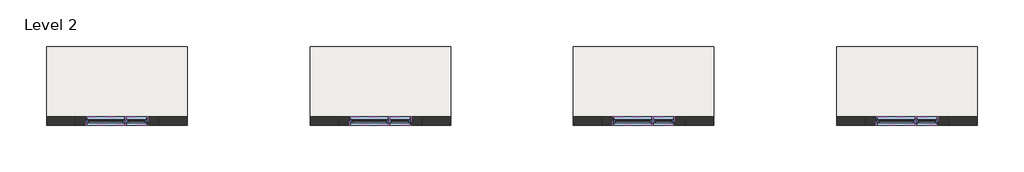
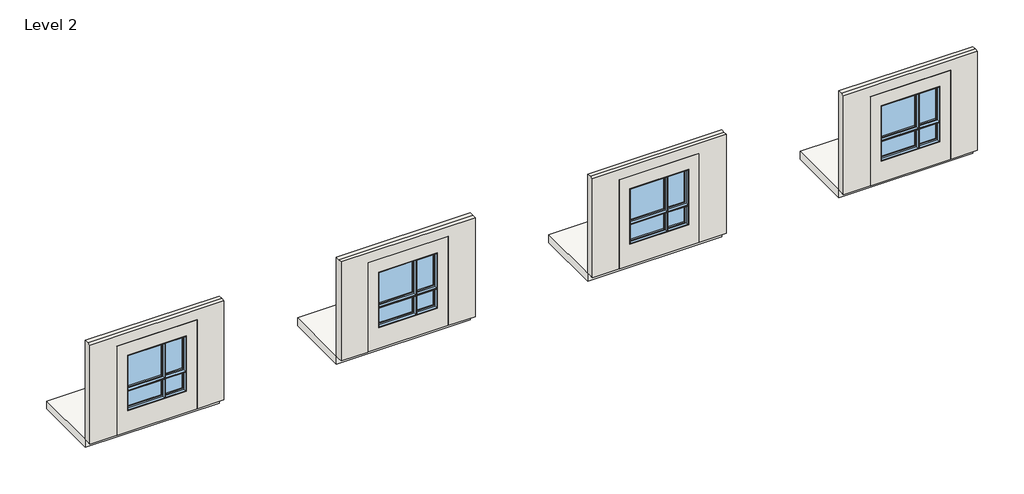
# One storey: 16 windows, 8 walls, 4 slabs.
"""IFC4 building model written with IfcOpenShell, lengths in millimetres."""

from ifc_helpers import new_model, si_unit, origin, place, context, project, spatial, faceted_brep, transform, mapped, element, save
from components import plank_window_awning_4626_d54cf950, plank_window_casement_2646_fc72efb1, plank_window_fixed_2626_f09a5b78, plank_window_fixed_4646_613d52dc

model = new_model("IFC4")

# Units and contexts
model_context = context("Model", 3, world=origin())
ifc_project = project(units=[si_unit("LENGTHUNIT", "METRE", prefix="MILLI")], contexts=[model_context])

# Site, building, storey
site = spatial("IfcSite", under=ifc_project)
building = spatial("IfcBuilding", under=site)
storey = spatial("IfcBuildingStorey", under=building, Name="Level 2", Elevation=3048.0)

# Slabs
placement = place(None, origin())
element("IfcSlab", 1, ObjectType="Generic - 12\"", at=placement, inside=storey, context=model_context, shape_type="Brep", body=[
    faceted_brep([(2579.5935045, 2980.4489771, 2743.2), (-2297.2064955, 2980.4489771, 2743.2), (-2297.2064955, 5418.8489771, 2743.2), (2579.5935045, 5418.8489771, 2743.2), (2579.5935045, 2980.4489771, 3048.0), (2579.5935045, 5418.8489771, 3048.0), (-2297.2064955, 5418.8489771, 3048.0), (-2297.2064955, 2980.4489771, 3048.0), (-1306.6064955, 2980.4489771, 3048.0), (1601.6935045, 2980.4489771, 3048.0)], [[[0, 1, 2, 3]], [[4, 5, 6, 7, 8, 9]], [[1, 0, 4, 9, 8, 7]], [[2, 1, 7, 6]], [[3, 2, 6, 5]], [[0, 3, 5, 4]]]),
])
element("IfcSlab", 2, ObjectType="Generic - 12\"", at=placement, inside=storey, context=model_context, shape_type="Brep", body=[
    faceted_brep([(-6564.4064955, 2980.4489771, 2743.2), (-11441.2064955, 2980.4489771, 2743.2), (-11441.2064955, 5418.8489771, 2743.2), (-6564.4064955, 5418.8489771, 2743.2), (-6564.4064955, 2980.4489771, 3048.0), (-6564.4064955, 5418.8489771, 3048.0), (-11441.2064955, 5418.8489771, 3048.0), (-11441.2064955, 2980.4489771, 3048.0), (-10450.6064955, 2980.4489771, 3048.0), (-7542.3064955, 2980.4489771, 3048.0)], [[[0, 1, 2, 3]], [[4, 5, 6, 7, 8, 9]], [[1, 0, 4, 9, 8, 7]], [[2, 1, 7, 6]], [[3, 2, 6, 5]], [[0, 3, 5, 4]]]),
])
element("IfcSlab", 3, ObjectType="Generic - 12\"", at=placement, inside=storey, context=model_context, shape_type="Brep", body=[
    faceted_brep([(-15708.4064955, 2980.4489771, 2743.2), (-20585.2064955, 2980.4489771, 2743.2), (-20585.2064955, 5418.8489771, 2743.2), (-15708.4064955, 5418.8489771, 2743.2), (-15708.4064955, 2980.4489771, 3048.0), (-15708.4064955, 5418.8489771, 3048.0), (-20585.2064955, 5418.8489771, 3048.0), (-20585.2064955, 2980.4489771, 3048.0), (-19594.6064955, 2980.4489771, 3048.0), (-16686.3064955, 2980.4489771, 3048.0)], [[[0, 1, 2, 3]], [[4, 5, 6, 7, 8, 9]], [[1, 0, 4, 9, 8, 7]], [[2, 1, 7, 6]], [[3, 2, 6, 5]], [[0, 3, 5, 4]]]),
])
element("IfcSlab", 4, ObjectType="Generic - 12\"", at=placement, inside=storey, context=model_context, shape_type="Brep", body=[
    faceted_brep([(-24852.4064955, 2980.4489771, 2743.2), (-29729.2064955, 2980.4489771, 2743.2), (-29729.2064955, 5418.8489771, 2743.2), (-24852.4064955, 5418.8489771, 2743.2), (-24852.4064955, 2980.4489771, 3048.0), (-24852.4064955, 5418.8489771, 3048.0), (-29729.2064955, 5418.8489771, 3048.0), (-29729.2064955, 2980.4489771, 3048.0), (-28738.6064955, 2980.4489771, 3048.0), (-25830.3064955, 2980.4489771, 3048.0)], [[[0, 1, 2, 3]], [[4, 5, 6, 7, 8, 9]], [[1, 0, 4, 9, 8, 7]], [[2, 1, 7, 6]], [[3, 2, 6, 5]], [[0, 3, 5, 4]]]),
])

# Walls
element("IfcWall", 5, ObjectType="EXT-SIDE.STUD-5.5\" 4\" RIGID - METAL Vert", at=placement, inside=storey, context=model_context, shape_type="Brep", body=[
    faceted_brep([(-2297.2064955, 2683.5864771, 3048.0), (-1319.3064955, 2683.5864771, 3048.0), (-1319.3064955, 2683.5864771, 6477.0), (1601.6935045, 2683.5864771, 6477.0), (1601.6935045, 2683.5864771, 3048.0), (2579.5935045, 2683.5864771, 3048.0), (2579.5935045, 2683.5864771, 6858.0), (-2297.2064955, 2683.5864771, 6858.0), (-2297.2064955, 2980.4489771, 3048.0), (-2297.2064955, 2980.4489771, 6858.0), (2579.5935045, 2980.4489771, 6858.0), (2579.5935045, 2980.4489771, 3048.0), (1601.6935045, 2980.4489771, 3048.0), (1601.6935045, 2980.4489771, 6477.0), (-1319.3064955, 2980.4489771, 6477.0), (-1319.3064955, 2980.4489771, 3048.0), (2579.5935045, 2828.0489771, 3048.0), (2579.5935045, 2828.0489771, 6858.0), (-2297.2064955, 2828.0489771, 6858.0), (-2297.2064955, 2828.0489771, 3048.0), (-1319.3064955, 2828.0489771, 3048.0), (-1319.3064955, 2828.0489771, 6477.0), (1601.6935045, 2828.0489771, 6477.0), (1601.6935045, 2828.0489771, 3048.0)], [[[0, 1, 2, 3, 4, 5, 6, 7]], [[8, 9, 10, 11, 12, 13, 14, 15]], [[6, 5, 16, 11, 10, 17]], [[0, 7, 18, 9, 8, 19]], [[19, 8, 15, 20]], [[1, 0, 19, 20]], [[17, 10, 9, 18]], [[7, 6, 17, 18]], [[2, 1, 20, 15, 14, 21]], [[4, 3, 22, 13, 12, 23]], [[21, 14, 13, 22]], [[3, 2, 21, 22]], [[23, 12, 11, 16]], [[5, 4, 23, 16]]]),
])
element("IfcWall", 6, ObjectType="EXT-SIDE.STUD-5.5\" 4\" RIGID - METAL Horizontal", at=placement, inside=storey, context=model_context, shape_type="Brep", body=[
    faceted_brep([(1601.6935045, 2683.5864771, 3048.0), (1601.6935045, 2683.5864771, 6477.0), (-1319.3064955, 2683.5864771, 6477.0), (-1319.3064955, 2683.5864771, 3048.0), (-1306.6064955, 2683.5864771, 3048.0), (1207.9935045, 2683.5864771, 5988.05), (1207.9935045, 2683.5864771, 3854.45), (-925.6064955, 2683.5864771, 3854.45), (-925.6064955, 2683.5864771, 5988.05), (1601.6935045, 2980.4489771, 6477.0), (1601.6935045, 2980.4489771, 3048.0), (-1306.6064955, 2980.4489771, 3048.0), (-1319.3064955, 2980.4489771, 3048.0), (-1319.3064955, 2980.4489771, 6477.0), (-925.6064955, 2980.4489771, 3854.45), (1207.9935045, 2980.4489771, 3854.45), (1207.9935045, 2980.4489771, 5988.05), (-925.6064955, 2980.4489771, 5988.05), (1601.6935045, 2828.0489771, 3048.0), (1601.6935045, 2828.0489771, 6477.0), (-1319.3064955, 2828.0489771, 6477.0), (-1319.3064955, 2828.0489771, 3048.0), (-1306.6064955, 2828.0489771, 3048.0)], [[[0, 1, 2, 3, 4], [5, 6, 7, 8]], [[9, 10, 11, 12, 13], [14, 15, 16, 17]], [[1, 0, 18, 10, 9, 19]], [[3, 2, 20, 13, 12, 21]], [[12, 11, 10, 18, 22, 21]], [[0, 4, 3, 21, 22, 18]], [[9, 13, 20, 19]], [[2, 1, 19, 20]], [[7, 14, 17, 8]], [[14, 7, 6, 15]], [[8, 17, 16, 5]], [[5, 16, 15, 6]]]),
])
element("IfcWall", 7, ObjectType="EXT-SIDE.STUD-5.5\" 4\" RIGID - METAL Vert", at=placement, inside=storey, context=model_context, shape_type="Brep", body=[
    faceted_brep([(-11441.2064955, 2683.5864771, 3048.0), (-10463.3064955, 2683.5864771, 3048.0), (-10463.3064955, 2683.5864771, 6477.0), (-7542.3064955, 2683.5864771, 6477.0), (-7542.3064955, 2683.5864771, 3048.0), (-6564.4064955, 2683.5864771, 3048.0), (-6564.4064955, 2683.5864771, 6858.0), (-11441.2064955, 2683.5864771, 6858.0), (-11441.2064955, 2980.4489771, 3048.0), (-11441.2064955, 2980.4489771, 6858.0), (-6564.4064955, 2980.4489771, 6858.0), (-6564.4064955, 2980.4489771, 3048.0), (-7542.3064955, 2980.4489771, 3048.0), (-7542.3064955, 2980.4489771, 6477.0), (-10463.3064955, 2980.4489771, 6477.0), (-10463.3064955, 2980.4489771, 3048.0), (-6564.4064955, 2828.0489771, 3048.0), (-6564.4064955, 2828.0489771, 6858.0), (-11441.2064955, 2828.0489771, 6858.0), (-11441.2064955, 2828.0489771, 3048.0), (-10463.3064955, 2828.0489771, 3048.0), (-10463.3064955, 2828.0489771, 6477.0), (-7542.3064955, 2828.0489771, 6477.0), (-7542.3064955, 2828.0489771, 3048.0)], [[[0, 1, 2, 3, 4, 5, 6, 7]], [[8, 9, 10, 11, 12, 13, 14, 15]], [[6, 5, 16, 11, 10, 17]], [[0, 7, 18, 9, 8, 19]], [[19, 8, 15, 20]], [[1, 0, 19, 20]], [[17, 10, 9, 18]], [[7, 6, 17, 18]], [[2, 1, 20, 15, 14, 21]], [[4, 3, 22, 13, 12, 23]], [[21, 14, 13, 22]], [[3, 2, 21, 22]], [[23, 12, 11, 16]], [[5, 4, 23, 16]]]),
])
element("IfcWall", 8, ObjectType="EXT-SIDE.STUD-5.5\" 4\" RIGID - METAL Horizontal", at=placement, inside=storey, context=model_context, shape_type="Brep", body=[
    faceted_brep([(-7542.3064955, 2683.5864771, 3048.0), (-7542.3064955, 2683.5864771, 6477.0), (-10463.3064955, 2683.5864771, 6477.0), (-10463.3064955, 2683.5864771, 3048.0), (-10450.6064955, 2683.5864771, 3048.0), (-7936.0064955, 2683.5864771, 5988.05), (-7936.0064955, 2683.5864771, 3854.45), (-10069.6064955, 2683.5864771, 3854.45), (-10069.6064955, 2683.5864771, 5988.05), (-7542.3064955, 2980.4489771, 6477.0), (-7542.3064955, 2980.4489771, 3048.0), (-10450.6064955, 2980.4489771, 3048.0), (-10463.3064955, 2980.4489771, 3048.0), (-10463.3064955, 2980.4489771, 6477.0), (-10069.6064955, 2980.4489771, 3854.45), (-7936.0064955, 2980.4489771, 3854.45), (-7936.0064955, 2980.4489771, 5988.05), (-10069.6064955, 2980.4489771, 5988.05), (-7542.3064955, 2828.0489771, 3048.0), (-7542.3064955, 2828.0489771, 6477.0), (-10463.3064955, 2828.0489771, 6477.0), (-10463.3064955, 2828.0489771, 3048.0), (-10450.6064955, 2828.0489771, 3048.0)], [[[0, 1, 2, 3, 4], [5, 6, 7, 8]], [[9, 10, 11, 12, 13], [14, 15, 16, 17]], [[1, 0, 18, 10, 9, 19]], [[3, 2, 20, 13, 12, 21]], [[12, 11, 10, 18, 22, 21]], [[0, 4, 3, 21, 22, 18]], [[9, 13, 20, 19]], [[2, 1, 19, 20]], [[7, 14, 17, 8]], [[14, 7, 6, 15]], [[8, 17, 16, 5]], [[5, 16, 15, 6]]]),
])
element("IfcWall", 9, ObjectType="EXT-SIDE.STUD-5.5\" 4\" RIGID - METAL Vert", at=placement, inside=storey, context=model_context, shape_type="Brep", body=[
    faceted_brep([(-20585.2064955, 2683.5864771, 3048.0), (-19607.3064955, 2683.5864771, 3048.0), (-19607.3064955, 2683.5864771, 6477.0), (-16686.3064955, 2683.5864771, 6477.0), (-16686.3064955, 2683.5864771, 3048.0), (-15708.4064955, 2683.5864771, 3048.0), (-15708.4064955, 2683.5864771, 6858.0), (-20585.2064955, 2683.5864771, 6858.0), (-20585.2064955, 2980.4489771, 3048.0), (-20585.2064955, 2980.4489771, 6858.0), (-15708.4064955, 2980.4489771, 6858.0), (-15708.4064955, 2980.4489771, 3048.0), (-16686.3064955, 2980.4489771, 3048.0), (-16686.3064955, 2980.4489771, 6477.0), (-19607.3064955, 2980.4489771, 6477.0), (-19607.3064955, 2980.4489771, 3048.0), (-15708.4064955, 2828.0489771, 3048.0), (-15708.4064955, 2828.0489771, 6858.0), (-20585.2064955, 2828.0489771, 6858.0), (-20585.2064955, 2828.0489771, 3048.0), (-19607.3064955, 2828.0489771, 3048.0), (-19607.3064955, 2828.0489771, 6477.0), (-16686.3064955, 2828.0489771, 6477.0), (-16686.3064955, 2828.0489771, 3048.0)], [[[0, 1, 2, 3, 4, 5, 6, 7]], [[8, 9, 10, 11, 12, 13, 14, 15]], [[6, 5, 16, 11, 10, 17]], [[0, 7, 18, 9, 8, 19]], [[19, 8, 15, 20]], [[1, 0, 19, 20]], [[17, 10, 9, 18]], [[7, 6, 17, 18]], [[2, 1, 20, 15, 14, 21]], [[4, 3, 22, 13, 12, 23]], [[21, 14, 13, 22]], [[3, 2, 21, 22]], [[23, 12, 11, 16]], [[5, 4, 23, 16]]]),
])
element("IfcWall", 10, ObjectType="EXT-SIDE.STUD-5.5\" 4\" RIGID - METAL Horizontal", at=placement, inside=storey, context=model_context, shape_type="Brep", body=[
    faceted_brep([(-16686.3064955, 2683.5864771, 3048.0), (-16686.3064955, 2683.5864771, 6477.0), (-19607.3064955, 2683.5864771, 6477.0), (-19607.3064955, 2683.5864771, 3048.0), (-19594.6064955, 2683.5864771, 3048.0), (-17080.0064955, 2683.5864771, 5988.05), (-17080.0064955, 2683.5864771, 3854.45), (-19213.6064955, 2683.5864771, 3854.45), (-19213.6064955, 2683.5864771, 5988.05), (-16686.3064955, 2980.4489771, 6477.0), (-16686.3064955, 2980.4489771, 3048.0), (-19594.6064955, 2980.4489771, 3048.0), (-19607.3064955, 2980.4489771, 3048.0), (-19607.3064955, 2980.4489771, 6477.0), (-19213.6064955, 2980.4489771, 3854.45), (-17080.0064955, 2980.4489771, 3854.45), (-17080.0064955, 2980.4489771, 5988.05), (-19213.6064955, 2980.4489771, 5988.05), (-16686.3064955, 2828.0489771, 3048.0), (-16686.3064955, 2828.0489771, 6477.0), (-19607.3064955, 2828.0489771, 6477.0), (-19607.3064955, 2828.0489771, 3048.0), (-19594.6064955, 2828.0489771, 3048.0)], [[[0, 1, 2, 3, 4], [5, 6, 7, 8]], [[9, 10, 11, 12, 13], [14, 15, 16, 17]], [[1, 0, 18, 10, 9, 19]], [[3, 2, 20, 13, 12, 21]], [[12, 11, 10, 18, 22, 21]], [[0, 4, 3, 21, 22, 18]], [[9, 13, 20, 19]], [[2, 1, 19, 20]], [[7, 14, 17, 8]], [[14, 7, 6, 15]], [[8, 17, 16, 5]], [[5, 16, 15, 6]]]),
])
element("IfcWall", 11, ObjectType="EXT-SIDE.STUD-5.5\" 4\" RIGID - METAL Vert", at=placement, inside=storey, context=model_context, shape_type="Brep", body=[
    faceted_brep([(-29729.2064955, 2683.5864771, 3048.0), (-28751.3064955, 2683.5864771, 3048.0), (-28751.3064955, 2683.5864771, 6477.0), (-25830.3064955, 2683.5864771, 6477.0), (-25830.3064955, 2683.5864771, 3048.0), (-24852.4064955, 2683.5864771, 3048.0), (-24852.4064955, 2683.5864771, 6858.0), (-29729.2064955, 2683.5864771, 6858.0), (-29729.2064955, 2980.4489771, 3048.0), (-29729.2064955, 2980.4489771, 6858.0), (-24852.4064955, 2980.4489771, 6858.0), (-24852.4064955, 2980.4489771, 3048.0), (-25830.3064955, 2980.4489771, 3048.0), (-25830.3064955, 2980.4489771, 6477.0), (-28751.3064955, 2980.4489771, 6477.0), (-28751.3064955, 2980.4489771, 3048.0), (-24852.4064955, 2828.0489771, 3048.0), (-24852.4064955, 2828.0489771, 6858.0), (-29729.2064955, 2828.0489771, 6858.0), (-29729.2064955, 2828.0489771, 3048.0), (-28751.3064955, 2828.0489771, 3048.0), (-28751.3064955, 2828.0489771, 6477.0), (-25830.3064955, 2828.0489771, 6477.0), (-25830.3064955, 2828.0489771, 3048.0)], [[[0, 1, 2, 3, 4, 5, 6, 7]], [[8, 9, 10, 11, 12, 13, 14, 15]], [[6, 5, 16, 11, 10, 17]], [[0, 7, 18, 9, 8, 19]], [[19, 8, 15, 20]], [[1, 0, 19, 20]], [[17, 10, 9, 18]], [[7, 6, 17, 18]], [[2, 1, 20, 15, 14, 21]], [[4, 3, 22, 13, 12, 23]], [[21, 14, 13, 22]], [[3, 2, 21, 22]], [[23, 12, 11, 16]], [[5, 4, 23, 16]]]),
])
element("IfcWall", 12, ObjectType="EXT-SIDE.STUD-5.5\" 4\" RIGID - METAL Horizontal", at=placement, inside=storey, context=model_context, shape_type="Brep", body=[
    faceted_brep([(-25830.3064955, 2683.5864771, 3048.0), (-25830.3064955, 2683.5864771, 6477.0), (-28751.3064955, 2683.5864771, 6477.0), (-28751.3064955, 2683.5864771, 3048.0), (-28738.6064955, 2683.5864771, 3048.0), (-26224.0064955, 2683.5864771, 5988.05), (-26224.0064955, 2683.5864771, 3854.45), (-28357.6064955, 2683.5864771, 3854.45), (-28357.6064955, 2683.5864771, 5988.05), (-25830.3064955, 2980.4489771, 6477.0), (-25830.3064955, 2980.4489771, 3048.0), (-28738.6064955, 2980.4489771, 3048.0), (-28751.3064955, 2980.4489771, 3048.0), (-28751.3064955, 2980.4489771, 6477.0), (-28357.6064955, 2980.4489771, 3854.45), (-26224.0064955, 2980.4489771, 3854.45), (-26224.0064955, 2980.4489771, 5988.05), (-28357.6064955, 2980.4489771, 5988.05), (-25830.3064955, 2828.0489771, 3048.0), (-25830.3064955, 2828.0489771, 6477.0), (-28751.3064955, 2828.0489771, 6477.0), (-28751.3064955, 2828.0489771, 3048.0), (-28738.6064955, 2828.0489771, 3048.0)], [[[0, 1, 2, 3, 4], [5, 6, 7, 8]], [[9, 10, 11, 12, 13], [14, 15, 16, 17]], [[1, 0, 18, 10, 9, 19]], [[3, 2, 20, 13, 12, 21]], [[12, 11, 10, 18, 22, 21]], [[0, 4, 3, 21, 22, 18]], [[9, 13, 20, 19]], [[2, 1, 19, 20]], [[7, 14, 17, 8]], [[14, 7, 6, 15]], [[8, 17, 16, 5]], [[5, 16, 15, 6]]]),
])

# Windows
plank_window_awning_4626_shape = plank_window_awning_4626_d54cf950(model_context)
element("IfcWindow", 13, ObjectType="Plank Window : Awning 4626", at=placement, inside=storey, context=model_context, shape_type="MappedRepresentation", body=[
    mapped(plank_window_awning_4626_shape, transform((-239.8064955, 2832.0177271, 2940.05), x_axis=(-1.0, 0.0, 0.0), y_axis=(0.0, -1.0, 0.0), z_axis=(0.0, 0.0, 1.0))),
])
element("IfcWindow", 14, ObjectType="Plank Window : Awning 4626", at=placement, inside=storey, context=model_context, shape_type="MappedRepresentation", body=[
    mapped(plank_window_awning_4626_shape, transform((-9383.8064955, 2832.0177271, 2940.05), x_axis=(-1.0, 0.0, 0.0), y_axis=(0.0, -1.0, 0.0), z_axis=(0.0, 0.0, 1.0))),
])
element("IfcWindow", 15, ObjectType="Plank Window : Awning 4626", at=placement, inside=storey, context=model_context, shape_type="MappedRepresentation", body=[
    mapped(plank_window_awning_4626_shape, transform((-18527.8064955, 2832.0177271, 2940.05), x_axis=(-1.0, 0.0, 0.0), y_axis=(0.0, -1.0, 0.0), z_axis=(0.0, 0.0, 1.0))),
])
element("IfcWindow", 16, ObjectType="Plank Window : Awning 4626", at=placement, inside=storey, context=model_context, shape_type="MappedRepresentation", body=[
    mapped(plank_window_awning_4626_shape, transform((-27671.8064955, 2832.0177271, 2940.05), x_axis=(-1.0, 0.0, 0.0), y_axis=(0.0, -1.0, 0.0), z_axis=(0.0, 0.0, 1.0))),
])
plank_window_casement_2646_shape = plank_window_casement_2646_fc72efb1(model_context)
element("IfcWindow", 17, ObjectType="Plank Window : Casement 2646", at=placement, inside=storey, context=model_context, shape_type="MappedRepresentation", body=[
    mapped(plank_window_casement_2646_shape, transform((826.9935045, 2832.0177271, 3702.05), x_axis=(-1.0, 0.0, 0.0), y_axis=(0.0, -1.0, 0.0), z_axis=(0.0, 0.0, 1.0))),
])
element("IfcWindow", 18, ObjectType="Plank Window : Casement 2646", at=placement, inside=storey, context=model_context, shape_type="MappedRepresentation", body=[
    mapped(plank_window_casement_2646_shape, transform((-8317.0064955, 2832.0177271, 3702.05), x_axis=(-1.0, 0.0, 0.0), y_axis=(0.0, -1.0, 0.0), z_axis=(0.0, 0.0, 1.0))),
])
element("IfcWindow", 19, ObjectType="Plank Window : Casement 2646", at=placement, inside=storey, context=model_context, shape_type="MappedRepresentation", body=[
    mapped(plank_window_casement_2646_shape, transform((-17461.0064955, 2832.0177271, 3702.05), x_axis=(-1.0, 0.0, 0.0), y_axis=(0.0, -1.0, 0.0), z_axis=(0.0, 0.0, 1.0))),
])
element("IfcWindow", 20, ObjectType="Plank Window : Casement 2646", at=placement, inside=storey, context=model_context, shape_type="MappedRepresentation", body=[
    mapped(plank_window_casement_2646_shape, transform((-26605.0064955, 2832.0177271, 3702.05), x_axis=(-1.0, 0.0, 0.0), y_axis=(0.0, -1.0, 0.0), z_axis=(0.0, 0.0, 1.0))),
])
plank_window_fixed_2626_shape = plank_window_fixed_2626_f09a5b78(model_context)
element("IfcWindow", 21, ObjectType="Plank Window : Fixed 2626", at=placement, inside=storey, context=model_context, shape_type="MappedRepresentation", body=[
    mapped(plank_window_fixed_2626_shape, transform((826.9935045, 2832.0177271, 2940.05), x_axis=(-1.0, 0.0, 0.0), y_axis=(0.0, -1.0, 0.0), z_axis=(0.0, 0.0, 1.0))),
])
element("IfcWindow", 22, ObjectType="Plank Window : Fixed 2626", at=placement, inside=storey, context=model_context, shape_type="MappedRepresentation", body=[
    mapped(plank_window_fixed_2626_shape, transform((-8317.0064955, 2832.0177271, 2940.05), x_axis=(-1.0, 0.0, 0.0), y_axis=(0.0, -1.0, 0.0), z_axis=(0.0, 0.0, 1.0))),
])
element("IfcWindow", 23, ObjectType="Plank Window : Fixed 2626", at=placement, inside=storey, context=model_context, shape_type="MappedRepresentation", body=[
    mapped(plank_window_fixed_2626_shape, transform((-17461.0064955, 2832.0177271, 2940.05), x_axis=(-1.0, 0.0, 0.0), y_axis=(0.0, -1.0, 0.0), z_axis=(0.0, 0.0, 1.0))),
])
element("IfcWindow", 24, ObjectType="Plank Window : Fixed 2626", at=placement, inside=storey, context=model_context, shape_type="MappedRepresentation", body=[
    mapped(plank_window_fixed_2626_shape, transform((-26605.0064955, 2832.0177271, 2940.05), x_axis=(-1.0, 0.0, 0.0), y_axis=(0.0, -1.0, 0.0), z_axis=(0.0, 0.0, 1.0))),
])
plank_window_fixed_4646_shape = plank_window_fixed_4646_613d52dc(model_context)
element("IfcWindow", 25, ObjectType="Plank Window : Fixed 4646", at=placement, inside=storey, context=model_context, shape_type="MappedRepresentation", body=[
    mapped(plank_window_fixed_4646_shape, transform((-239.8064955, 2832.0177271, 3702.05), x_axis=(-1.0, 0.0, 0.0), y_axis=(0.0, -1.0, 0.0), z_axis=(0.0, 0.0, 1.0))),
])
element("IfcWindow", 26, ObjectType="Plank Window : Fixed 4646", at=placement, inside=storey, context=model_context, shape_type="MappedRepresentation", body=[
    mapped(plank_window_fixed_4646_shape, transform((-9383.8064955, 2832.0177271, 3702.05), x_axis=(-1.0, 0.0, 0.0), y_axis=(0.0, -1.0, 0.0), z_axis=(0.0, 0.0, 1.0))),
])
element("IfcWindow", 27, ObjectType="Plank Window : Fixed 4646", at=placement, inside=storey, context=model_context, shape_type="MappedRepresentation", body=[
    mapped(plank_window_fixed_4646_shape, transform((-18527.8064955, 2832.0177271, 3702.05), x_axis=(-1.0, 0.0, 0.0), y_axis=(0.0, -1.0, 0.0), z_axis=(0.0, 0.0, 1.0))),
])
element("IfcWindow", 28, ObjectType="Plank Window : Fixed 4646", at=placement, inside=storey, context=model_context, shape_type="MappedRepresentation", body=[
    mapped(plank_window_fixed_4646_shape, transform((-27671.8064955, 2832.0177271, 3702.05), x_axis=(-1.0, 0.0, 0.0), y_axis=(0.0, -1.0, 0.0), z_axis=(0.0, 0.0, 1.0))),
])

save(model, "model.ifc")
